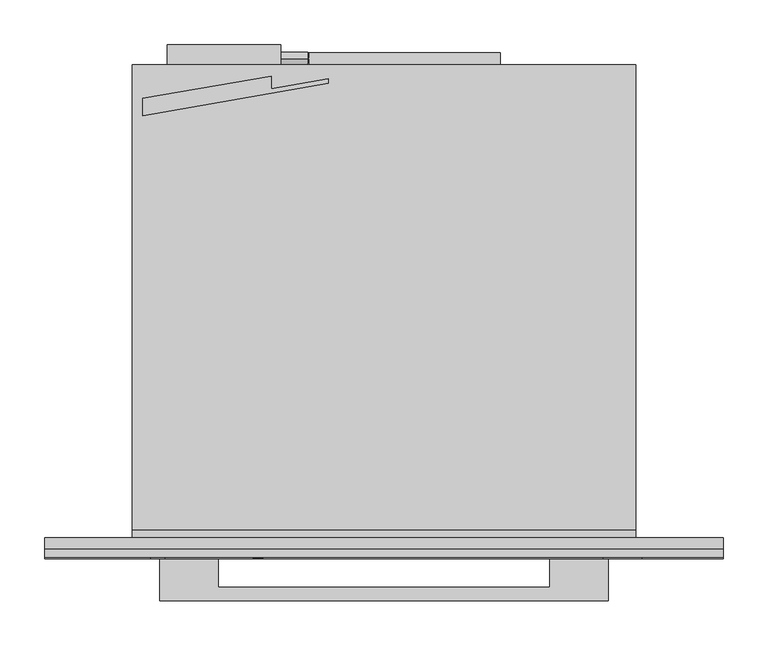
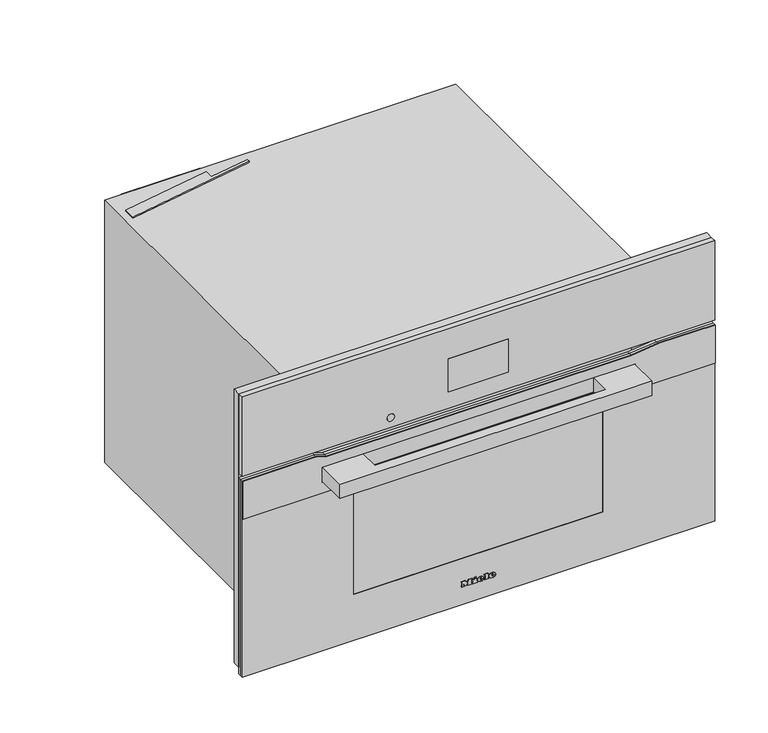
"""IFC4 building model written with IfcOpenShell, lengths in millimetres: proxy geometry, 11804610_USA_H7670BM_EDST-CLST : 22767046_USA_11804610_H7670BM_EDST-CLST."""

from ifc_helpers import new_model, si_unit, point, frame, frame_2d, origin, place, context, project, spatial, polyline, circle_curve, ellipse_curve, trimmed, segment, composite_curve, outline, extrude, faceted_brep, source, transform, mapped, element, save
from ifc_brep_helpers import plane_surface, cylinder_surface, revolved_surface, extruded_surface, advanced_brep


def specialty_equipment_2ededa6e(model_context):
    return source(origin(), model_context, "Body", "SolidModel", [
        advanced_brep(
        [(21.28, -23.0, 36.133), (21.28, -23.0, 37.042), (27.301, -23.0, 37.042), (16.825, -23.0, 37.042), (19.3, -23.0, 34.0), (27.148, -23.0, 36.133), (24.43, -23.0, 36.133), (22.288, -23.0, 35.125), (21.28, -23.0, 38.194), (21.28, -23.0, 39.175), (22.819, -23.0, 39.175), (22.819, -23.0, 38.194), (21.28, -22.0, 36.133), (22.288, -22.0, 35.125), (24.43, -22.0, 36.133), (27.148, -22.0, 36.133), (19.3, -22.0, 34.0), (16.825, -22.0, 37.042), (27.301, -22.0, 37.042), (21.28, -22.0, 37.042), (21.28, -22.0, 38.194), (22.819, -22.0, 38.194), (22.819, -22.0, 39.175), (21.28, -22.0, 39.175)],
        [
            (0, 1),
            (1, 2),
            (2, 3, ellipse_curve(frame((22.063, -23.0, 37.042), z_axis=(0.0, -1.0, 0.0), x_axis=(-1.0, 0.0, 0.0)), 5.238, 4.329)),
            (3, 4, circle_curve(frame((20.3080491, -23.0, 37.348), z_axis=(0.0, -1.0, 0.0), x_axis=(0.0, 0.0, -1.0)), 3.4964649)),
            (4, 5, circle_curve(frame((21.9581428, -23.0, 39.724), z_axis=(0.0, -1.0, 0.0), x_axis=(0.0, 0.0, -1.0)), 6.3110933)),
            (5, 6),
            (6, 7, circle_curve(frame((22.7279412, -23.0, 36.97), z_axis=(0.0, 1.0, 0.0), x_axis=(0.0, 0.0, -1.0)), 1.896727)),
            (7, 0, circle_curve(frame((22.288, -23.0, 36.133), z_axis=(0.0, 1.0, 0.0), x_axis=(0.0, 0.0, -1.0)), 1.008)),
            (8, 9),
            (9, 10, circle_curve(frame((22.0495, -23.0, 39.175), z_axis=(0.0, 1.0, 0.0), x_axis=(0.0, 0.0, -1.0)), 0.7695)),
            (10, 11),
            (11, 8),
            (12, 13, circle_curve(frame((22.288, -22.0, 36.133), z_axis=(0.0, -1.0, 0.0), x_axis=(0.0, 0.0, -1.0)), 1.008)),
            (13, 14, circle_curve(frame((22.7279412, -22.0, 36.97), z_axis=(0.0, -1.0, 0.0), x_axis=(0.0, 0.0, -1.0)), 1.896727)),
            (14, 15),
            (15, 16, circle_curve(frame((21.9581428, -22.0, 39.724), z_axis=(0.0, 1.0, 0.0), x_axis=(0.0, 0.0, -1.0)), 6.3110933)),
            (16, 17, circle_curve(frame((20.3080491, -22.0, 37.348), z_axis=(0.0, 1.0, 0.0), x_axis=(0.0, 0.0, -1.0)), 3.4964649)),
            (17, 18, ellipse_curve(frame((22.063, -22.0, 37.042), z_axis=(0.0, 1.0, 0.0), x_axis=(-1.0, 0.0, 0.0)), 5.238, 4.329)),
            (18, 19),
            (19, 12),
            (20, 21),
            (21, 22),
            (22, 23, circle_curve(frame((22.0495, -22.0, 39.175), z_axis=(0.0, -1.0, 0.0), x_axis=(0.0, 0.0, -1.0)), 0.7695)),
            (23, 20),
            (0, 12),
            (19, 1),
            (18, 2),
            (5, 15),
            (14, 6),
            (17, 3),
            (13, 7),
            (16, 4),
            (8, 20),
            (23, 9),
            (22, 10),
            (21, 11),
        ],
        [
            plane_surface(frame((21.28, -23.0, 37.042), z_axis=(0.0, -1.0, 0.0), x_axis=(0.0, 0.0, 1.0))),
            plane_surface(frame((21.28, -22.0, 37.042), z_axis=(0.0, 1.0, 0.0), x_axis=(0.0, 0.0, -1.0))),
            plane_surface(frame((21.28, -23.0, 36.133), z_axis=(1.0, 0.0, 0.0), x_axis=(0.0, 1.0, 0.0))),
            plane_surface(frame((21.28, -23.0, 37.042), z_axis=(0.0, 0.0, -1.0), x_axis=(0.0, 1.0, 0.0))),
            plane_surface(frame((27.148, -23.0, 36.133), z_axis=(0.0, 0.0, 1.0), x_axis=(0.0, 1.0, 0.0))),
            extruded_surface(trimmed(ellipse_curve(frame((22.063, -21.0, 37.042), z_axis=(0.0, -1.0, 0.0), x_axis=(-1.0, 0.0, 0.0)), 5.238, 4.329), [point((27.301, -21.0, 37.042))], [point((16.825, -21.0, 37.042))], True, "CARTESIAN"), (0.0, -1.0, 0.0), 1.0),
            revolved_surface(polyline([(22.7279412, -22.0, 35.073273), (22.7279412, -23.0, 35.073273)]), (22.7279412, -22.0, 36.97), (0.0, 1.0, 0.0)),
            revolved_surface(polyline([(22.288, -22.0, 35.125), (22.288, -23.0, 35.125)]), (22.288, -22.0, 36.133), (0.0, 1.0, 0.0)),
            cylinder_surface(frame((20.3080491, -22.0, 37.348), z_axis=(0.0, -1.0, 0.0), x_axis=(0.0, 0.0, -1.0)), 3.4964649),
            cylinder_surface(frame((21.9581428, -22.0, 39.724), z_axis=(0.0, -1.0, 0.0), x_axis=(0.0, 0.0, -1.0)), 6.3110933),
            plane_surface(frame((21.28, -23.0, 38.194), z_axis=(1.0, 0.0, 0.0), x_axis=(0.0, 1.0, 0.0))),
            revolved_surface(polyline([(22.0495, -22.0, 38.405499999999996), (22.0495, -23.0, 38.405499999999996)]), (22.0495, -22.0, 39.175), (0.0, 1.0, 0.0)),
            plane_surface(frame((22.819, -23.0, 39.175), z_axis=(-1.0, 0.0, 0.0), x_axis=(0.0, 1.0, 0.0))),
            plane_surface(frame((22.819, -23.0, 38.194), z_axis=(0.0, 0.0, 1.0), x_axis=(0.0, 1.0, 0.0))),
        ],
        [
            (0, [[1, 2, 3, 4, 5, 6, 7, 8], [9, 10, 11, 12]]),
            (1, [[13, 14, 15, 16, 17, 18, 19, 20], [21, 22, 23, 24]]),
            (2, [[-1, 25, -20, 26]]),
            (3, [[-2, -26, -19, 27]]),
            (4, [[-6, 28, -15, 29]]),
            (5, [[-3, -27, -18, 30]]),
            (6, [[-7, -29, -14, 31]]),
            (7, [[-8, -31, -13, -25]]),
            (8, [[-4, -30, -17, 32]]),
            (9, [[-5, -32, -16, -28]]),
            (10, [[-9, 33, -24, 34]]),
            (11, [[-10, -34, -23, 35]]),
            (12, [[-11, -35, -22, 36]]),
            (13, [[-12, -36, -21, -33]]),
        ],
    ),
        advanced_brep(
        [(2.497, -23.0, 36.133), (2.497, -23.0, 37.042), (8.518, -23.0, 37.042), (-1.958, -23.0, 37.042), (0.517, -23.0, 34.0), (8.365, -23.0, 36.133), (5.647, -23.0, 36.133), (3.505, -23.0, 35.125), (2.497, -23.0, 38.194), (2.497, -23.0, 39.175), (4.036, -23.0, 39.175), (4.036, -23.0, 38.194), (2.497, -22.0, 36.133), (3.505, -22.0, 35.125), (5.647, -22.0, 36.133), (8.365, -22.0, 36.133), (0.517, -22.0, 34.0), (-1.958, -22.0, 37.042), (8.518, -22.0, 37.042), (2.497, -22.0, 37.042), (2.497, -22.0, 38.194), (4.036, -22.0, 38.194), (4.036, -22.0, 39.175), (2.497, -22.0, 39.175)],
        [
            (0, 1),
            (1, 2),
            (2, 3, ellipse_curve(frame((3.28, -23.0, 37.042), z_axis=(0.0, -1.0, 0.0), x_axis=(-1.0, 0.0, 0.0)), 5.238, 4.329)),
            (3, 4, circle_curve(frame((1.5250491, -23.0, 37.348), z_axis=(0.0, -1.0, 0.0), x_axis=(0.0, 0.0, -1.0)), 3.4964649)),
            (4, 5, circle_curve(frame((3.1751428, -23.0, 39.724), z_axis=(0.0, -1.0, 0.0), x_axis=(0.0, 0.0, -1.0)), 6.3110933)),
            (5, 6),
            (6, 7, circle_curve(frame((3.9449412, -23.0, 36.97), z_axis=(0.0, 1.0, 0.0), x_axis=(0.0, 0.0, -1.0)), 1.896727)),
            (7, 0, circle_curve(frame((3.505, -23.0, 36.133), z_axis=(0.0, 1.0, 0.0), x_axis=(0.0, 0.0, -1.0)), 1.008)),
            (8, 9),
            (9, 10, circle_curve(frame((3.2665, -23.0, 39.175), z_axis=(0.0, 1.0, 0.0), x_axis=(0.0, 0.0, -1.0)), 0.7695)),
            (10, 11),
            (11, 8),
            (12, 13, circle_curve(frame((3.505, -22.0, 36.133), z_axis=(0.0, -1.0, 0.0), x_axis=(0.0, 0.0, -1.0)), 1.008)),
            (13, 14, circle_curve(frame((3.9449412, -22.0, 36.97), z_axis=(0.0, -1.0, 0.0), x_axis=(0.0, 0.0, -1.0)), 1.896727)),
            (14, 15),
            (15, 16, circle_curve(frame((3.1751428, -22.0, 39.724), z_axis=(0.0, 1.0, 0.0), x_axis=(0.0, 0.0, -1.0)), 6.3110933)),
            (16, 17, circle_curve(frame((1.5250491, -22.0, 37.348), z_axis=(0.0, 1.0, 0.0), x_axis=(0.0, 0.0, -1.0)), 3.4964649)),
            (17, 18, ellipse_curve(frame((3.28, -22.0, 37.042), z_axis=(0.0, 1.0, 0.0), x_axis=(-1.0, 0.0, 0.0)), 5.238, 4.329)),
            (18, 19),
            (19, 12),
            (20, 21),
            (21, 22),
            (22, 23, circle_curve(frame((3.2665, -22.0, 39.175), z_axis=(0.0, -1.0, 0.0), x_axis=(0.0, 0.0, -1.0)), 0.7695)),
            (23, 20),
            (0, 12),
            (19, 1),
            (18, 2),
            (5, 15),
            (14, 6),
            (17, 3),
            (13, 7),
            (16, 4),
            (8, 20),
            (23, 9),
            (22, 10),
            (21, 11),
        ],
        [
            plane_surface(frame((2.497, -23.0, 37.042), z_axis=(0.0, -1.0, 0.0), x_axis=(0.0, 0.0, 1.0))),
            plane_surface(frame((2.497, -22.0, 37.042), z_axis=(0.0, 1.0, 0.0), x_axis=(0.0, 0.0, -1.0))),
            plane_surface(frame((2.497, -23.0, 36.133), z_axis=(1.0, 0.0, 0.0), x_axis=(0.0, 1.0, 0.0))),
            plane_surface(frame((2.497, -23.0, 37.042), z_axis=(0.0, 0.0, -1.0), x_axis=(0.0, 1.0, 0.0))),
            plane_surface(frame((8.365, -23.0, 36.133), z_axis=(0.0, 0.0, 1.0), x_axis=(0.0, 1.0, 0.0))),
            extruded_surface(trimmed(ellipse_curve(frame((3.28, -21.0, 37.042), z_axis=(0.0, -1.0, 0.0), x_axis=(-1.0, 0.0, 0.0)), 5.238, 4.329), [point((8.518, -21.0, 37.042))], [point((-1.958, -21.0, 37.042))], True, "CARTESIAN"), (0.0, -1.0, 0.0), 1.0),
            revolved_surface(polyline([(3.9449412, -22.0, 35.073273), (3.9449412, -23.0, 35.073273)]), (3.9449412, -22.0, 36.97), (0.0, 1.0, 0.0)),
            revolved_surface(polyline([(3.505, -22.0, 35.125), (3.505, -23.0, 35.125)]), (3.505, -22.0, 36.133), (0.0, 1.0, 0.0)),
            cylinder_surface(frame((1.5250491, -22.0, 37.348), z_axis=(0.0, -1.0, 0.0), x_axis=(0.0, 0.0, -1.0)), 3.4964649),
            cylinder_surface(frame((3.1751428, -22.0, 39.724), z_axis=(0.0, -1.0, 0.0), x_axis=(0.0, 0.0, -1.0)), 6.3110933),
            plane_surface(frame((2.497, -23.0, 38.194), z_axis=(1.0, 0.0, 0.0), x_axis=(0.0, 1.0, 0.0))),
            revolved_surface(polyline([(3.2665, -22.0, 38.405499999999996), (3.2665, -23.0, 38.405499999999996)]), (3.2665, -22.0, 39.175), (0.0, 1.0, 0.0)),
            plane_surface(frame((4.036, -23.0, 39.175), z_axis=(-1.0, 0.0, 0.0), x_axis=(0.0, 1.0, 0.0))),
            plane_surface(frame((4.036, -23.0, 38.194), z_axis=(0.0, 0.0, 1.0), x_axis=(0.0, 1.0, 0.0))),
        ],
        [
            (0, [[1, 2, 3, 4, 5, 6, 7, 8], [9, 10, 11, 12]]),
            (1, [[13, 14, 15, 16, 17, 18, 19, 20], [21, 22, 23, 24]]),
            (2, [[-1, 25, -20, 26]]),
            (3, [[-2, -26, -19, 27]]),
            (4, [[-6, 28, -15, 29]]),
            (5, [[-3, -27, -18, 30]]),
            (6, [[-7, -29, -14, 31]]),
            (7, [[-8, -31, -13, -25]]),
            (8, [[-4, -30, -17, 32]]),
            (9, [[-5, -32, -16, -28]]),
            (10, [[-9, 33, -24, 34]]),
            (11, [[-10, -34, -23, 35]]),
            (12, [[-11, -35, -22, 36]]),
            (13, [[-12, -36, -21, -33]]),
        ],
    ),
        extrude(outline(polyline([(42.469, -7.34), (41.011, -6.656), (42.433, -3.605), (43.891, -4.28), (42.469, -7.34)])), frame((0.0, -23.0, 0.0), z_axis=(0.0, 1.0, 0.0), x_axis=(0.0, 0.0, 1.0)), (0.0, 0.0, 1.0), 1.0),
        extrude(outline(polyline([(40.813, -9.563), (39.202, -9.563), (39.202, -8.492), (35.512, -8.492), (35.512, -9.563), (34.0, -9.563), (34.0, -2.462), (35.512, -2.462), (35.512, -3.506), (40.813, -3.506), (40.813, -9.563)])), frame((0.0, -23.0, 0.0), z_axis=(0.0, 1.0, 0.0), x_axis=(0.0, 0.0, 1.0)), (0.0, 0.0, 1.0), 1.0),
        extrude(outline(polyline([(41.533, 9.022), (41.533, 10.102), (35.512, 10.102), (35.512, 9.022), (34.0, 9.022), (34.0, 16.321), (35.512, 16.321), (35.512, 15.214), (43.0, 15.214), (43.0, 9.022), (41.533, 9.022)])), frame((0.0, -23.0, 0.0), z_axis=(0.0, 1.0, 0.0), x_axis=(0.0, 0.0, 1.0)), (0.0, 0.0, 1.0), 1.0),
        extrude(outline(polyline([(41.533, -27.5), (41.533, -26.411), (35.512, -26.411), (35.512, -27.5), (34.0, -27.5), (34.0, -23.54), (35.512, -23.54), (35.512, -24.62), (39.3341247, -24.62), (34.0, -20.597), (39.4402223, -16.556), (35.512, -16.556), (35.512, -17.663), (34.0, -17.663), (34.0, -10.481), (35.512, -10.481), (35.512, -11.624), (41.533, -11.624), (41.533, -10.481), (43.0, -10.481), (43.0, -15.962), (39.625, -18.59), (43.0, -21.227), (43.0, -27.5), (41.533, -27.5)])), frame((0.0, -23.0, 0.0), z_axis=(0.0, 1.0, 0.0), x_axis=(0.0, 0.0, 1.0)), (0.0, 0.0, 1.0), 1.0),
        extrude(outline(polyline([(-250.0, -70.3), (-250.0, -22.0), (-185.0, -22.0), (-185.0, -55.3), (185.0, -55.3), (185.0, -22.0), (250.0, -22.0), (250.0, -70.3), (-250.0, -70.3)])), frame((0.0, 0.0, 291.0), z_axis=(0.0, 0.0, 1.0), x_axis=(1.0, 0.0, 0.0)), (0.0, 0.0, 1.0), 24.0),
        extrude(outline(polyline([(337.0, -378.5), (4.0, -378.5), (4.0, 378.5), (337.0, 378.5), (337.0, 287.3542631), (332.0, 244.0), (332.0, -244.0), (337.0, -260.3542631), (337.0, -378.5)]), holes=[polyline([(252.0, 199.5), (82.0, 199.5), (82.0, -199.5), (252.0, -199.5), (252.0, 199.5)])]), frame((0.0, -22.0, 0.0), z_axis=(0.0, 1.0, 0.0), x_axis=(0.0, 0.0, 1.0)), (0.0, 0.0, 1.0), 4.0),
        extrude(outline(polyline([(337.0, -378.5), (272.0, -378.5), (272.0, 378.5), (337.0, 378.5), (337.0, 287.3542631), (332.0, 244.0), (332.0, -244.0), (337.0, -260.3542631), (337.0, -378.5)]), holes=[polyline([(315.5, -250.5), (315.5, 250.5), (290.5, 250.5), (290.5, -250.5), (315.5, -250.5)])]), frame((0.0, -23.3, 0.0), z_axis=(0.0, 1.0, 0.0), x_axis=(0.0, 0.0, 1.0)), (0.0, 0.0, 1.0), 1.3),
        extrude(outline(polyline([(337.0, -378.5), (4.0, -378.5), (4.0, 378.5), (337.0, 378.5), (337.0, 287.3542631), (332.0, 244.0), (332.0, -244.0), (337.0, -260.3542631), (337.0, -378.5)])), frame((0.0, -18.0, 0.0), z_axis=(0.0, 1.0, 0.0), x_axis=(0.0, 0.0, 1.0)), (0.0, 0.0, 1.0), 5.0),
        extrude(outline(polyline([(-199.5, -18.0), (199.5, -18.0), (199.5, -22.0), (-199.5, -22.0), (-199.5, -18.0)])), frame((0.0, 0.0, 82.0), z_axis=(0.0, 0.0, 1.0), x_axis=(1.0, 0.0, 0.0)), (0.0, 0.0, 1.0), 170.0),
        extrude(outline(polyline([(-48.0, -21.0), (48.0, -21.0), (48.0, -22.0), (-48.0, -22.0), (-48.0, -21.0)])), frame((0.0, 0.0, 372.0), z_axis=(0.0, 0.0, 1.0), x_axis=(1.0, 0.0, 0.0)), (0.0, 0.0, 1.0), 56.0),
        faceted_brep([(378.5, -22.0, 479.0), (-378.5, -22.0, 479.0), (-378.5, -22.0, 344.0), (378.5, -22.0, 344.0), (48.0, -22.0, 428.0), (48.0, -22.0, 372.0), (-48.0, -22.0, 372.0), (-48.0, -22.0, 428.0), (378.5, -13.0, 479.0), (378.5, -13.0, 344.0), (-378.5, -13.0, 344.0), (-378.5, -13.0, 479.0), (48.0, -21.0, 428.0), (-48.0, -21.0, 428.0), (-48.0, -21.0, 372.0), (48.0, -21.0, 372.0)], [[[0, 1, 2, 3], [4, 5, 6, 7]], [[8, 9, 10, 11]], [[1, 0, 8, 11]], [[2, 1, 11, 10]], [[3, 2, 10, 9]], [[0, 3, 9, 8]], [[12, 13, 14, 15]], [[12, 15, 5, 4]], [[15, 14, 6, 5]], [[14, 13, 7, 6]], [[13, 12, 4, 7]]]),
        extrude(outline(composite_curve([segment(trimmed(circle_curve(frame_2d((361.0, -140.5745637)), 6.0), [point((361.0, -146.5745637))], [point((361.0, -134.5745637))], False, "CARTESIAN"), True, "CONTINUOUS"), segment(trimmed(circle_curve(frame_2d((361.0, -140.5745637)), 6.0), [point((361.0, -134.5745637))], [point((361.0, -146.5745637))], False, "CARTESIAN"), True, "CONTINUOUS")], self_intersect=False)), frame((0.0, -22.5, 0.0), z_axis=(0.0, 1.0, 0.0), x_axis=(0.0, 0.0, 1.0)), (0.0, 0.0, 1.0), 1.0),
        extrude(outline(polyline([(-269.0, 490.2851942), (-126.0, 515.1547594), (-126.0, 500.9446163), (-62.0, 512.0750511), (-62.0, 507.0), (-269.0, 471.0), (-269.0, 490.2851942)])), frame((0.0, 0.0, 445.0), z_axis=(0.0, 0.0, 1.0), x_axis=(1.0, 0.0, 0.0)), (0.0, 0.0, 1.0), 2.0),
        extrude(outline(polyline([(528.134837, 358.3256163), (533.9911721, 358.3256163), (533.9911721, 357.3256163), (529.134837, 357.3256163), (529.134837, 353.8256163), (532.0849866, 353.8256163), (532.0849866, 352.8256163), (529.134837, 352.8256163), (529.134837, 349.3256163), (533.9911721, 349.3256163), (533.9911721, 348.3256163), (528.134837, 348.3256163), (528.134837, 358.3256163)])), frame((-85.0, 0.0, 0.0), z_axis=(1.0, 0.0, 0.0), x_axis=(0.0, 1.0, 0.0)), (0.0, 0.0, 1.0), 1.0),
        extrude(outline(polyline([(535.4911721, 348.3256163), (535.4911721, 358.3256163), (536.5959622, 358.3256163), (536.5959622, 349.3256163), (540.4911721, 349.3256163), (540.4911721, 348.3256163), (535.4911721, 348.3256163)])), frame((-85.0, 0.0, 0.0), z_axis=(1.0, 0.0, 0.0), x_axis=(0.0, 1.0, 0.0)), (0.0, 0.0, 1.0), 1.0),
        extrude(outline(composite_curve([segment(trimmed(circle_curve(frame_2d((534.0, 353.0)), 7.5), [point((534.0, 345.5))], [point((534.0, 360.5))], False, "CARTESIAN"), True, "CONTINUOUS"), segment(trimmed(circle_curve(frame_2d((534.0, 353.0)), 7.5), [point((534.0, 360.5))], [point((534.0, 345.5))], False, "CARTESIAN"), True, "CONTINUOUS")], self_intersect=False)), frame((-115.0, 0.0, 0.0), z_axis=(1.0, 0.0, 0.0), x_axis=(0.0, 1.0, 0.0)), (0.0, 0.0, 1.0), 30.0),
        extrude(outline(polyline([(-115.0, 528.0), (-242.0, 528.0), (-242.0, 550.0), (-115.0, 550.0), (-115.0, 528.0)])), frame((0.0, 0.0, 325.0), z_axis=(0.0, 0.0, 1.0), x_axis=(1.0, 0.0, 0.0)), (0.0, 0.0, 1.0), 103.0),
        faceted_brep([(272.5, 25.0, 344.0), (-272.5, 25.0, 344.0), (-272.5, 25.0, 15.0), (272.5, 25.0, 15.0), (-235.0, 25.0, 270.0), (235.0, 25.0, 270.0), (235.0, 25.0, 60.0), (-235.0, 25.0, 60.0), (272.5, 0.0, 344.0), (-272.5, 0.0, 344.0), (-272.5, 0.0, 15.0), (272.5, 0.0, 15.0), (281.0, 0.0, 0.0), (281.0, 528.0, 0.0), (281.0, 528.0, 445.0), (281.0, 9.0, 445.0), (281.0, 9.0, 440.0), (281.0, 0.0, 440.0), (-281.0, 9.0, 445.0), (-281.0, 528.0, 445.0), (-281.0, 528.0, 0.0), (-281.0, 0.0, 0.0), (-281.0, 0.0, 440.0), (-281.0, 9.0, 440.0), (235.0, 433.0, 270.0), (-235.0, 433.0, 270.0), (-235.0, 433.0, 60.0), (235.0, 433.0, 60.0)], [[[0, 1, 2, 3], [4, 5, 6, 7]], [[1, 0, 8, 9]], [[2, 1, 9, 10]], [[0, 3, 11, 8]], [[12, 13, 14, 15, 16, 17]], [[18, 19, 20, 21, 22, 23]], [[13, 12, 21, 20]], [[14, 13, 20, 19]], [[15, 14, 19, 18]], [[21, 12, 17, 22], [9, 8, 11, 10]], [[24, 25, 26, 27]], [[25, 24, 5, 4]], [[26, 25, 4, 7]], [[27, 26, 7, 6]], [[24, 27, 6, 5]], [[3, 2, 10, 11]], [[16, 23, 22, 17]], [[23, 16, 15, 18]]]),
        extrude(outline(polyline([(130.0, 528.0), (-130.0, 528.0), (-130.0, 541.0), (130.0, 541.0), (130.0, 528.0)])), frame((0.0, 0.0, 36.0), z_axis=(0.0, 0.0, 1.0), x_axis=(1.0, 0.0, 0.0)), (0.0, 0.0, 1.0), 260.0),
        extrude(outline(polyline([(15.0, 378.5), (479.0, 378.5), (479.0, -378.5), (15.0, -378.5), (15.0, -272.5), (344.0, -272.5), (344.0, 272.5), (15.0, 272.5), (15.0, 378.5)])), frame((0.0, -13.0, 0.0), z_axis=(0.0, 1.0, 0.0), x_axis=(0.0, 0.0, 1.0)), (0.0, 0.0, 1.0), 13.0),
    ])


if __name__ == "__main__":
    model = new_model("IFC4")
    model_context = context("Model", 3, world=origin())
    ifc_project = project(units=[si_unit("LENGTHUNIT", "METRE", prefix="MILLI")], contexts=[model_context])
    site = spatial("IfcSite", under=ifc_project)
    building = spatial("IfcBuilding", under=site)
    placement = place(None, origin())
    specialty_equipment_shape = specialty_equipment_2ededa6e(model_context)
    element("IfcBuildingElementProxy", 1, Name="11804610_USA_H7670BM_EDST-CLST : 22767046_USA_11804610_H7670BM_EDST-CLST", ObjectType="11804610_USA_H7670BM_EDST-CLST : 22767046_USA_11804610_H7670BM_EDST-CLST", at=placement, inside=building, context=model_context, shape_type="MappedRepresentation", body=[
        mapped(specialty_equipment_shape, transform((0.0, 0.0, 0.0), x_axis=(1.0, 0.0, 0.0), y_axis=(0.0, 1.0, 0.0), z_axis=(0.0, 0.0, 1.0))),
    ])
    save(model, "model.ifc")
